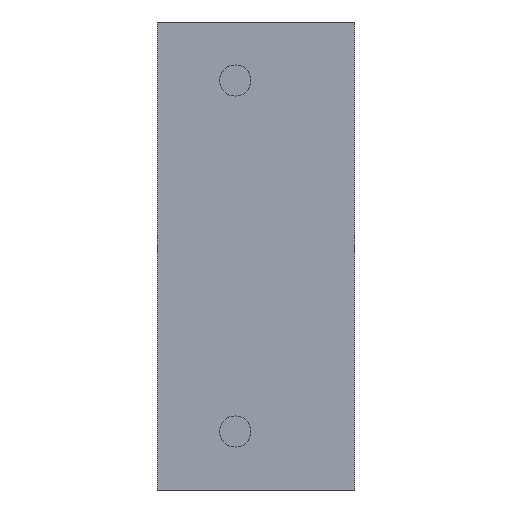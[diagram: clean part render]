
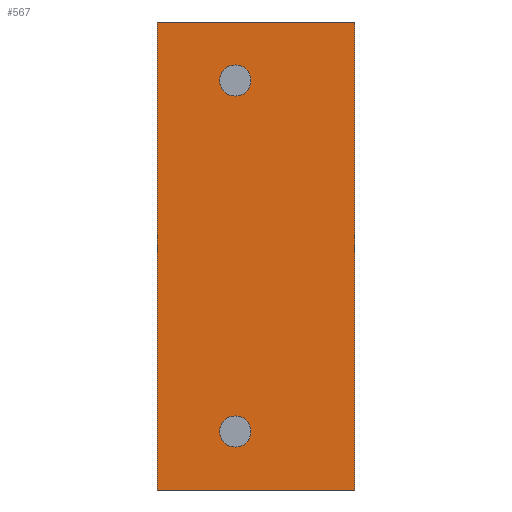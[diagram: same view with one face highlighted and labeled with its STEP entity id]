
A CAD part, left-side view. The second image highlights one B-rep face of the part: STEP entity #567.
In plain terms, the highlighted planar face has unit normal (-1, 0, 0).
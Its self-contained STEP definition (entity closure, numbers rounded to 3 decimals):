
#16 = CARTESIAN_POINT ( 'NONE',  ( -65.6, 12.65, 60. ) ) ;
#80 = LINE ( 'NONE', #556, #1099 ) ;
#90 = AXIS2_PLACEMENT_3D ( 'NONE', #2024, #339, #791 ) ;
#108 = AXIS2_PLACEMENT_3D ( 'NONE', #359, #1126, #1947 ) ;
#182 = PLANE ( 'NONE',  #90 ) ;
#184 = CIRCLE ( 'NONE', #591, 2. ) ;
#205 = CARTESIAN_POINT ( 'NONE',  ( -65.6, -12.65, 60. ) ) ;
#279 = CARTESIAN_POINT ( 'NONE',  ( -65.6, 2.65, 54.5 ) ) ;
#298 = FACE_BOUND ( 'NONE', #435, .T. ) ;
#300 = VERTEX_POINT ( 'NONE', #957 ) ;
#315 = CARTESIAN_POINT ( 'NONE',  ( -65.6, 2.65, 52.5 ) ) ;
#339 = DIRECTION ( 'NONE',  ( 1., 0., 0. ) ) ;
#343 = ORIENTED_EDGE ( 'NONE', *, *, #1059, .F. ) ;
#344 = DIRECTION ( 'NONE',  ( -1., 0., 0. ) ) ;
#359 = CARTESIAN_POINT ( 'NONE',  ( -65.6, 2.65, 7.5 ) ) ;
#369 = EDGE_LOOP ( 'NONE', ( #1291, #2009 ) ) ;
#371 = VERTEX_POINT ( 'NONE', #205 ) ;
#400 = CARTESIAN_POINT ( 'NONE',  ( -65.6, 2.65, 7.5 ) ) ;
#410 = VERTEX_POINT ( 'NONE', #1074 ) ;
#435 = EDGE_LOOP ( 'NONE', ( #1880, #343 ) ) ;
#446 = ORIENTED_EDGE ( 'NONE', *, *, #862, .T. ) ;
#497 = DIRECTION ( 'NONE',  ( 0., 0., 1. ) ) ;
#520 = LINE ( 'NONE', #538, #1565 ) ;
#538 = CARTESIAN_POINT ( 'NONE',  ( -65.6, -12.65, 60. ) ) ;
#556 = CARTESIAN_POINT ( 'NONE',  ( -65.6, 12.65, 0. ) ) ;
#567 = ADVANCED_FACE ( 'NONE', ( #298, #1728, #1245 ), #182, .F. ) ;
#584 = ORIENTED_EDGE ( 'NONE', *, *, #1324, .T. ) ;
#591 = AXIS2_PLACEMENT_3D ( 'NONE', #315, #1851, #911 ) ;
#606 = EDGE_CURVE ( 'NONE', #410, #371, #620, .T. ) ;
#620 = LINE ( 'NONE', #16, #1791 ) ;
#627 = VECTOR ( 'NONE', #1991, 1000. ) ;
#650 = CARTESIAN_POINT ( 'NONE',  ( -65.6, 2.65, 52.5 ) ) ;
#667 = VERTEX_POINT ( 'NONE', #1562 ) ;
#725 = CARTESIAN_POINT ( 'NONE',  ( -65.6, 2.65, 50.5 ) ) ;
#791 = DIRECTION ( 'NONE',  ( 0., 0., -1. ) ) ;
#837 = ORIENTED_EDGE ( 'NONE', *, *, #606, .F. ) ;
#862 = EDGE_CURVE ( 'NONE', #410, #1077, #1808, .T. ) ;
#871 = CARTESIAN_POINT ( 'NONE',  ( -65.6, 12.65, 60. ) ) ;
#911 = DIRECTION ( 'NONE',  ( 0., 0., 1. ) ) ;
#957 = CARTESIAN_POINT ( 'NONE',  ( -65.6, 2.65, 9.5 ) ) ;
#979 = CIRCLE ( 'NONE', #1501, 2. ) ;
#1059 = EDGE_CURVE ( 'NONE', #1274, #1444, #184, .T. ) ;
#1074 = CARTESIAN_POINT ( 'NONE',  ( -65.6, 12.65, 60. ) ) ;
#1077 = VERTEX_POINT ( 'NONE', #1399 ) ;
#1099 = VECTOR ( 'NONE', #1670, 1000. ) ;
#1126 = DIRECTION ( 'NONE',  ( -1., 0., 0. ) ) ;
#1148 = EDGE_CURVE ( 'NONE', #371, #2025, #520, .T. ) ;
#1174 = EDGE_CURVE ( 'NONE', #1444, #1274, #979, .T. ) ;
#1193 = EDGE_CURVE ( 'NONE', #300, #667, #1803, .T. ) ;
#1245 = FACE_OUTER_BOUND ( 'NONE', #1890, .T. ) ;
#1263 = AXIS2_PLACEMENT_3D ( 'NONE', #400, #1313, #1945 ) ;
#1265 = DIRECTION ( 'NONE',  ( 0., -1., 0. ) ) ;
#1274 = VERTEX_POINT ( 'NONE', #725 ) ;
#1291 = ORIENTED_EDGE ( 'NONE', *, *, #1193, .F. ) ;
#1313 = DIRECTION ( 'NONE',  ( -1., 0., 0. ) ) ;
#1324 = EDGE_CURVE ( 'NONE', #1077, #2025, #80, .T. ) ;
#1388 = ORIENTED_EDGE ( 'NONE', *, *, #1148, .F. ) ;
#1399 = CARTESIAN_POINT ( 'NONE',  ( -65.6, 12.65, 0. ) ) ;
#1444 = VERTEX_POINT ( 'NONE', #279 ) ;
#1501 = AXIS2_PLACEMENT_3D ( 'NONE', #650, #344, #497 ) ;
#1562 = CARTESIAN_POINT ( 'NONE',  ( -65.6, 2.65, 5.5 ) ) ;
#1565 = VECTOR ( 'NONE', #1776, 1000. ) ;
#1617 = EDGE_CURVE ( 'NONE', #667, #300, #1925, .T. ) ;
#1670 = DIRECTION ( 'NONE',  ( 0., -1., 0. ) ) ;
#1728 = FACE_BOUND ( 'NONE', #369, .T. ) ;
#1738 = CARTESIAN_POINT ( 'NONE',  ( -65.6, -12.65, 0. ) ) ;
#1776 = DIRECTION ( 'NONE',  ( 0., 0., -1. ) ) ;
#1791 = VECTOR ( 'NONE', #1265, 1000. ) ;
#1803 = CIRCLE ( 'NONE', #108, 2. ) ;
#1808 = LINE ( 'NONE', #871, #627 ) ;
#1851 = DIRECTION ( 'NONE',  ( -1., 0., 0. ) ) ;
#1880 = ORIENTED_EDGE ( 'NONE', *, *, #1174, .F. ) ;
#1890 = EDGE_LOOP ( 'NONE', ( #584, #1388, #837, #446 ) ) ;
#1925 = CIRCLE ( 'NONE', #1263, 2. ) ;
#1945 = DIRECTION ( 'NONE',  ( 0., 0., -1. ) ) ;
#1947 = DIRECTION ( 'NONE',  ( 0., 0., -1. ) ) ;
#1991 = DIRECTION ( 'NONE',  ( 0., 0., -1. ) ) ;
#2009 = ORIENTED_EDGE ( 'NONE', *, *, #1617, .F. ) ;
#2024 = CARTESIAN_POINT ( 'NONE',  ( -65.6, 12.65, 60. ) ) ;
#2025 = VERTEX_POINT ( 'NONE', #1738 ) ;
